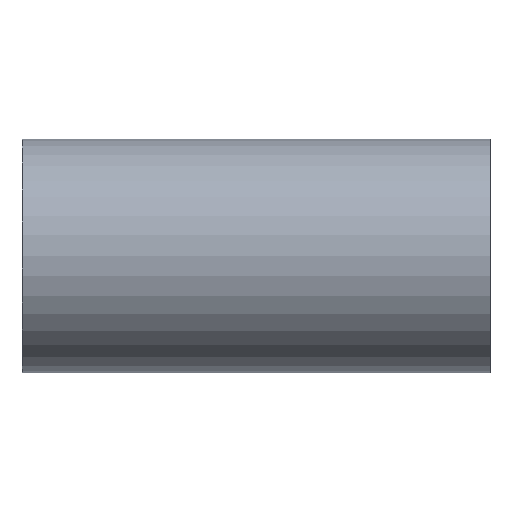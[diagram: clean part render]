
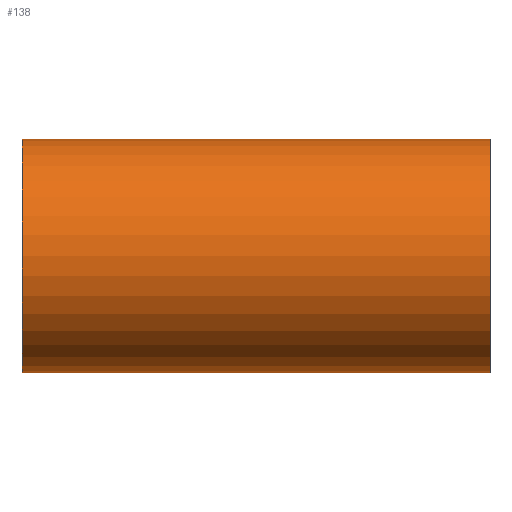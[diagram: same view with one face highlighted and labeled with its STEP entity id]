
A CAD part, top view. The second image highlights one B-rep face of the part: STEP entity #138.
In plain terms, the highlighted cylindrical face has radius 17.5 mm (diameter 35 mm), a full revolution.
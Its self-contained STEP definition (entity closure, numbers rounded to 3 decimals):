
#64=ORIENTED_EDGE('',*,*,#80,.T.);
#65=ORIENTED_EDGE('',*,*,#81,.T.);
#72=CIRCLE('',#129,17.5);
#73=CIRCLE('',#130,17.5);
#76=VERTEX_POINT('',#117);
#77=VERTEX_POINT('',#119);
#80=EDGE_CURVE('',#76,#76,#72,.T.);
#81=EDGE_CURVE('',#77,#77,#73,.T.);
#84=EDGE_LOOP('',(#64));
#85=EDGE_LOOP('',(#65));
#92=FACE_BOUND('',#84,.T.);
#93=FACE_BOUND('',#85,.T.);
#100=DIRECTION('',(1.,0.,0.));
#101=DIRECTION('',(0.,1.,0.));
#102=DIRECTION('',(1.,0.,0.));
#103=DIRECTION('',(0.,17.5,0.));
#104=DIRECTION('',(-1.,0.,0.));
#105=DIRECTION('',(0.,17.5,0.));
#116=CARTESIAN_POINT('',(0.,0.,0.));
#117=CARTESIAN_POINT('',(-70.,17.5,0.));
#118=CARTESIAN_POINT('',(-70.,0.,0.));
#119=CARTESIAN_POINT('',(0.,17.5,0.));
#120=CARTESIAN_POINT('',(0.,0.,0.));
#128=AXIS2_PLACEMENT_3D('',#116,#100,#101);
#129=AXIS2_PLACEMENT_3D('',#118,#102,#103);
#130=AXIS2_PLACEMENT_3D('',#120,#104,#105);
#136=CYLINDRICAL_SURFACE('',#128,17.5);
#138=ADVANCED_FACE('',(#92,#93),#136,.T.);
